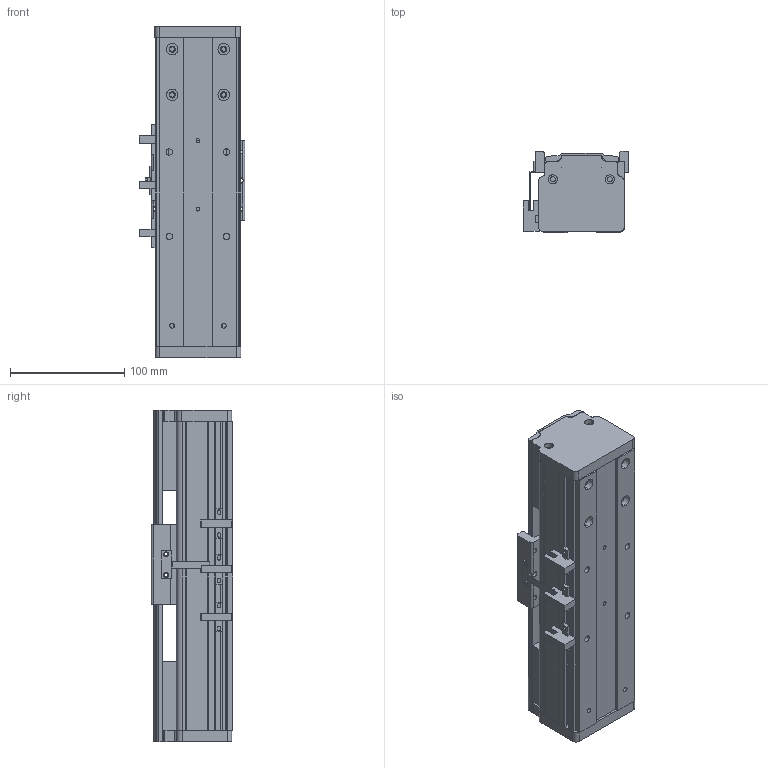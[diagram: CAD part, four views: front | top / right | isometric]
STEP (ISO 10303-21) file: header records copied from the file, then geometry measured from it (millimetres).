
FILE_DESCRIPTION (( 'STEP AP214' ), '1' );
FILE_NAME ('CF75-D-50-FWR.STEP', '2020-01-15T07:14:36', ( '微软用户' ), ( '微软中国' ), 'SwSTEP 2.0', 'SolidWorks 2016', '' );
FILE_SCHEMA (( 'AUTOMOTIVE_DESIGN' ));
Length unit declared in the file: millimetre
Products named in the file (12): EGR15-50; EGW15CA賑輸; 75賑輸; 植雄耜; CF75郔陔翋雄釱; CF75臏倰第-50; CF75-D-50-FWR; 75-86-95癹弇羲壽覜茼え; 嫖萇羲壽; 75侧板（2016.03.24改进） - 副本; 75侧板（2016.03.24改进）; 75裔啣-50
Assembly tree (13 placements, depth 2):
  CF75-D-50-FWR
    CF75臏倰第-50
    CF75郔陔翋雄釱
    植雄耜
    75賑輸
    EGW15CA賑輸
    EGR15-50
    75裔啣-50
    75侧板（2016.03.24改进）
    75侧板（2016.03.24改进） - 副本
    嫖萇羲壽  x3
    75-86-95癹弇羲壽覜茼え
Bounding box: 92.38 x 71.43 x 290 mm (x, y, z)
Volume: 965429.5 mm3; surface area: 267977.3 mm2
Topology: 13 solids, 13 shells, 678 faces, 1860 edges, 1216 vertices
Faces by surface type: plane 383, cylinder 279, cone 16
Entity records: 21330 total; most frequent: CARTESIAN_POINT 3824, DIRECTION 3451, ORIENTED_EDGE 3400, EDGE_CURVE 1700, AXIS2_PLACEMENT_3D 1187, VERTEX_POINT 1120, LINE 1077, VECTOR 1077
